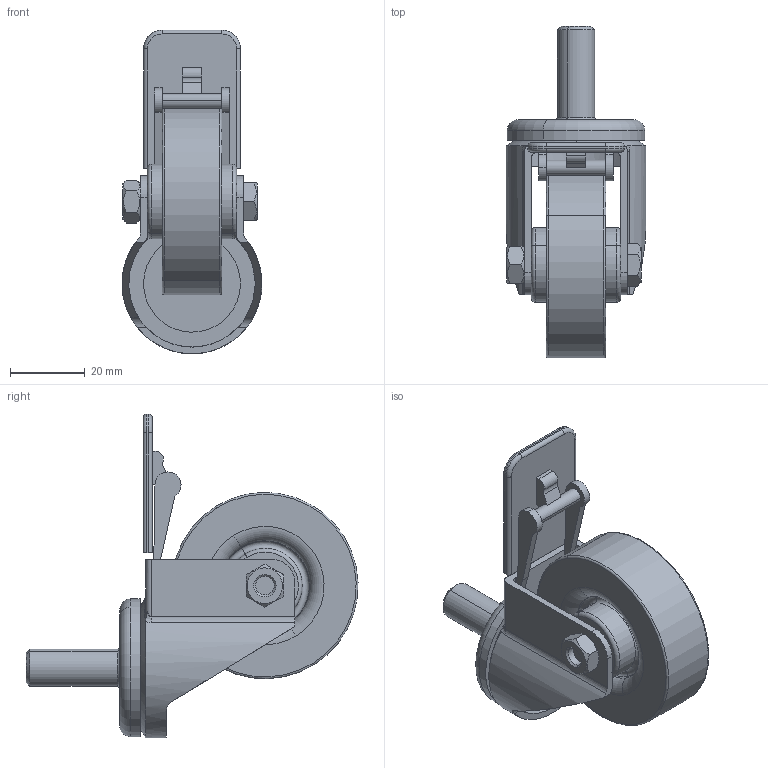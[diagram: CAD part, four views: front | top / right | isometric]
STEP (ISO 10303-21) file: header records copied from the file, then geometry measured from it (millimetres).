
FILE_DESCRIPTION (( 'STEP AP214' ), '1' );
FILE_NAME ('SNSD.30.53.10. 扻錼勷 c 襜謽鍡鍎 O50 M10x25(D81).STEP', '2015-12-18T10:59:32', ( '' ), ( '' ), 'SwSTEP 2.0', 'SolidWorks 2014', '' );
FILE_SCHEMA (( 'AUTOMOTIVE_DESIGN' ));
Length unit declared in the file: millimetre
Products named in the file (11): SNSD.30.50.71. 鍔錓(H51)23e3D81_00; SNSD.30.50.71. 扻錼勷(H51)23e3D81_00; SNSD.30.50.71. Îïîðà(H51)H5023e3D81_00; SNSD.30.50.71. Ïîäïèøïèêîâûé óçåë(H51)23e3D81; SNSD.30.50.71. Ãàéêà(H51)23e3D81; SNSD.30.50.71. 鍔錓(H51)23e3D81; SNSD.30.50.71. 扻錼勷(H51)23e3D81; SNSD.30.50.71. Îïîðà(H51)H5023e3D81; SNSD.30.53.10. 扻錼勷 c 襜謽鍡鍎 O50 M10x25(D81); SNSD.30.50.71. Ïîäïèøïèêîâûé óçåë(H51)23e3D81_00; SNSD.30.50.71. Ãàéêà(H51)23e3D81_00
Assembly tree (5 placements, depth 2):
  SNSD.30.50.71. Ïîäïèøïèêîâûé óçåë(H51)23e3D81
  SNSD.30.50.71. Ãàéêà(H51)23e3D81
  SNSD.30.50.71. 鍔錓(H51)23e3D81
  SNSD.30.50.71. 扻錼勷(H51)23e3D81
  SNSD.30.50.71. Îïîðà(H51)H5023e3D81
Bounding box: 37.52 x 89.09 x 86.84 mm (x, y, z)
Volume: 47631.3 mm3; surface area: 25379.8 mm2
Topology: 5 solids, 5 shells, 196 faces, 476 edges, 300 vertices
Faces by surface type: plane 74, cylinder 59, torus 29, cone 26, bspline 8
Entity records: 7196 total; most frequent: CARTESIAN_POINT 1731, DIRECTION 1017, ORIENTED_EDGE 952, EDGE_CURVE 476, AXIS2_PLACEMENT_3D 406, VERTEX_POINT 300, EDGE_LOOP 218, CIRCLE 209
